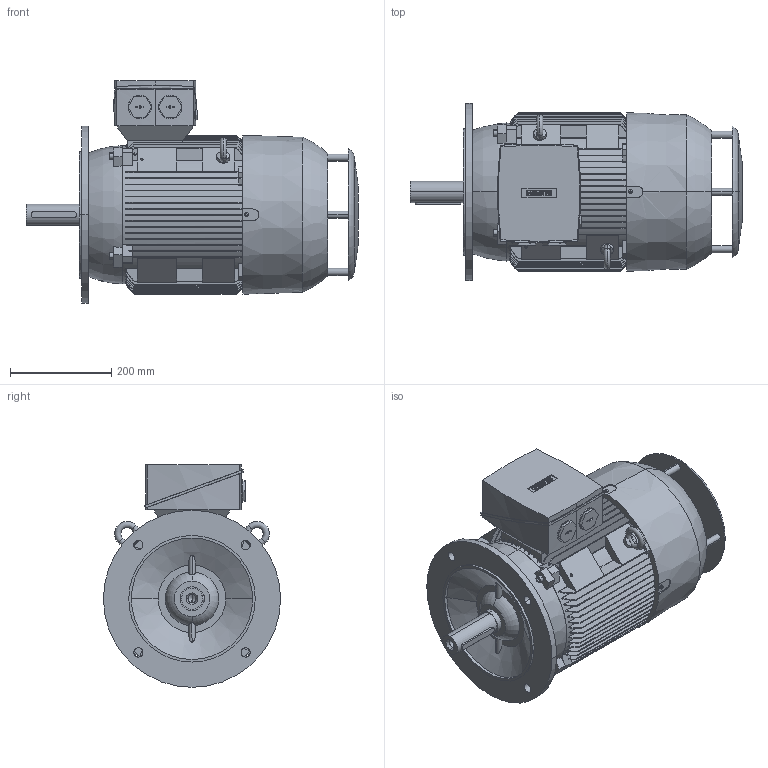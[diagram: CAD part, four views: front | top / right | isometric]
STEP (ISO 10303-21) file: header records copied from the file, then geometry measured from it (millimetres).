
FILE_DESCRIPTION(('STEP AP214'),'1');
FILE_NAME('cctmp_63161D77-A50F-4AA6-85BA-3B5AA4360B2E_2026_04_15_13_58_57_0152_51124..stp','2026-04-15T11:58:57',('KiM GmbH'),('CADClick - www.CADClick.com'),'Spatial InterOp 3D',' ','unknown authorization');
FILE_SCHEMA(('AUTOMOTIVE_DESIGN'));
Length unit declared in the file: millimetre
Products named in the file (1): 2026_04_15_13_58_57_0152
Bounding box: 656 x 350 x 440 mm (x, y, z)
Volume: 35280558.1 mm3; surface area: 1523981.4 mm2
Topology: 7 solids, 7 shells, 1065 faces, 2909 edges, 1918 vertices
Faces by surface type: plane 629, cylinder 264, torus 148, cone 24
Entity records: 50547 total; most frequent: CARTESIAN_POINT 15502, ORIENTED_EDGE 5818, DIRECTION 5102, EDGE_CURVE 2907, VERTEX_POINT 1918, AXIS2_PLACEMENT_3D 1705, LINE 1692, VECTOR 1692
